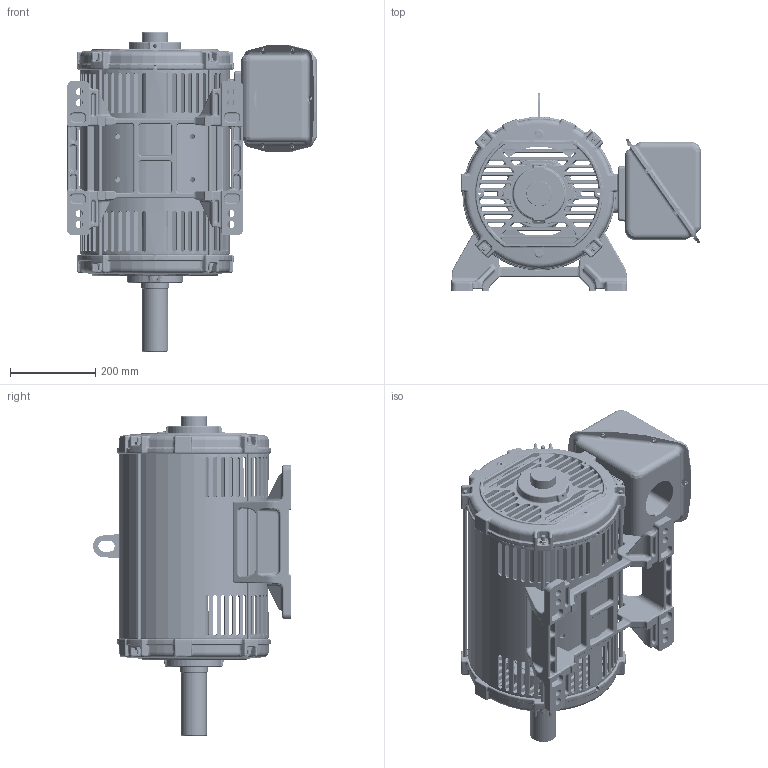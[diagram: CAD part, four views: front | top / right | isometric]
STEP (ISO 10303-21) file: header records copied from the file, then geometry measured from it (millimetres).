
FILE_DESCRIPTION((''),'2;1');
FILE_NAME('LATEST_4POLE_ASSY_ASM','2020-09-14T08:33:15',('EMD2341'),('Nidec Motor Corporation'),'CREO PARAMETRIC BY PTC INC, 2019080','CREO PARAMETRIC BY PTC INC, 2019080','');
FILE_SCHEMA(('CONFIG_CONTROL_DESIGN'));
Length unit declared in the file: inch
Products named in the file (18): 2088712_AF0; 2084934; 0132115; THRUST_WASHER; 4POLE; 0393774-003; 0391696; 375CC; 0991438-GSK; 2086395; 2048988-OBB; 2048939; 2048988-OBC; 2048940; 0003152; HJN012; 2086936-BSE; LATEST_4POLE_ASSY_ASM
Assembly tree (34 placements, depth 2):
  LATEST_4POLE_ASSY_ASM
    2088712_AF0
    2084934
    0132115
    THRUST_WASHER
    4POLE
    0393774-003
    0391696
    375CC  x4
    0991438-GSK
    2086395
    2048988-OBB
    2048939
    2048988-OBC
    2048940
    0003152  x8
    HJN012  x8
    2086936-BSE
Bounding box: 585.46 x 464.27 x 749.68 mm (x, y, z)
Volume: 10655168.3 mm3; surface area: 3020644.2 mm2
Topology: 36 solids, 44 shells, 6716 faces, 15654 edges, 8961 vertices
Faces by surface type: bspline 2819, cylinder 1585, plane 1027, torus 656, cone 373, sphere 256
Entity records: 313093 total; most frequent: CARTESIAN_POINT 183626, ORIENTED_EDGE 30406, DIRECTION 22439, EDGE_CURVE 15219, AXIS2_PLACEMENT_3D 9411, VERTEX_POINT 8685, EDGE_LOOP 6854, FACE_OUTER_BOUND 6524
